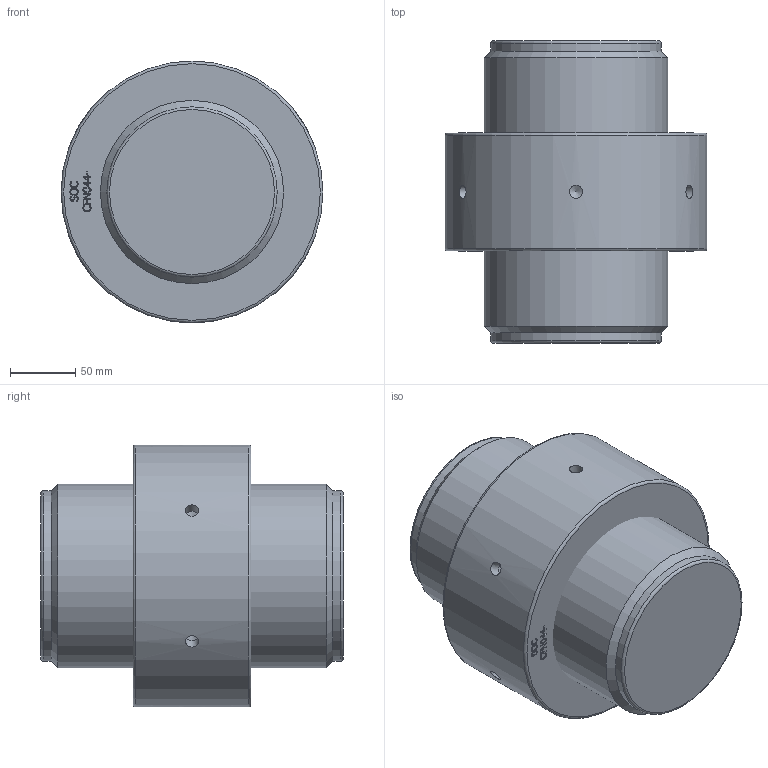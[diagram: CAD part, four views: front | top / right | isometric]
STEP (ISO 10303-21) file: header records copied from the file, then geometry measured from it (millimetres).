
FILE_DESCRIPTION(/* description */ (''),/* implementation_level */ '2;1');
FILE_NAME(/* name */ 'F:\Clienti LS\Redaelli\CYT\CYT\ARRNGEMENT\CYT044 61 061 0.stp',/* time_stamp */ '2021-05-09T08:45:10+02:00',/* author */ ('ranca'),/* organization */ (''),/* preprocessor_version */ 'ST-DEVELOPER v16.13',/* originating_system */ 'Autodesk Inventor 2018',/* authorisation */ '');
FILE_SCHEMA (('AUTOMOTIVE_DESIGN { 1 0 10303 214 3 1 1 }'));
Length unit declared in the file: millimetre
Products named in the file (3): CYT012-61-061-0; CYT012-61-061-0_1; CYT012-61-061-0_DADO
Assembly tree (2 placements, depth 2):
  CYT012-61-061-0
    CYT012-61-061-0_1
    CYT012-61-061-0_DADO
Bounding box: 200 x 231 x 200 mm (x, y, z)
Volume: 5071914.6 mm3; surface area: 258560.8 mm2
Topology: 2 solids, 2 shells, 332 faces, 899 edges, 599 vertices
Faces by surface type: plane 161, bspline 148, cylinder 11, cone 8, torus 4
Full cylindrical faces by diameter (mm): 10 x6, 130 x2, 133.505 x1, 140 x1, 200 x1
Entity records: 11184 total; most frequent: CARTESIAN_POINT 3920, ORIENTED_EDGE 1726, DIRECTION 953, EDGE_CURVE 863, VERTEX_POINT 586, LINE 535, VECTOR 535, EDGE_LOOP 385
